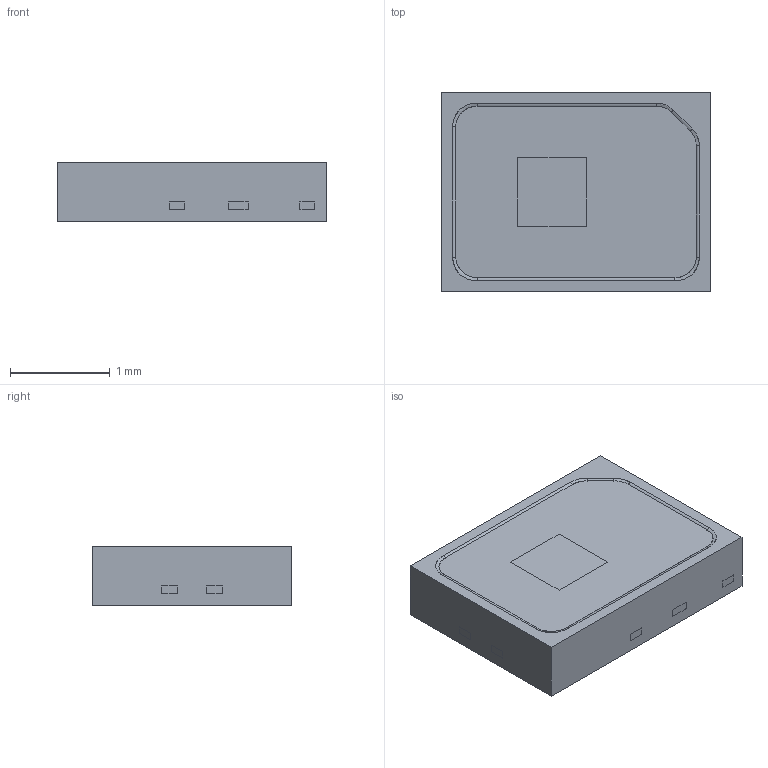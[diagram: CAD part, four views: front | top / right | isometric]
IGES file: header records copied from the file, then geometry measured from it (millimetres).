
Start section: SolidWorks IGES file using analytic representation for surfaces
Global section: file name: C:\Users\user\Desktop\XYY\1-车灯产品3D图汇总\EMC2720\LWJB-OK\光学模型\LWJB.IGS; native system: SolidWorks 2022; preprocessor: SolidWorks 2022; author: user; date: 250403.082924; units: millimetre
Bounding box: 2.7 x 2 x 0.6 mm (x, y, z)
Surface area: 46 mm2 (no closed solid volume)
Topology: 0 solids, 0 shells, 187 faces, 2128 edges, 2702 vertices
Faces by surface type: bspline 111, revolution 76
